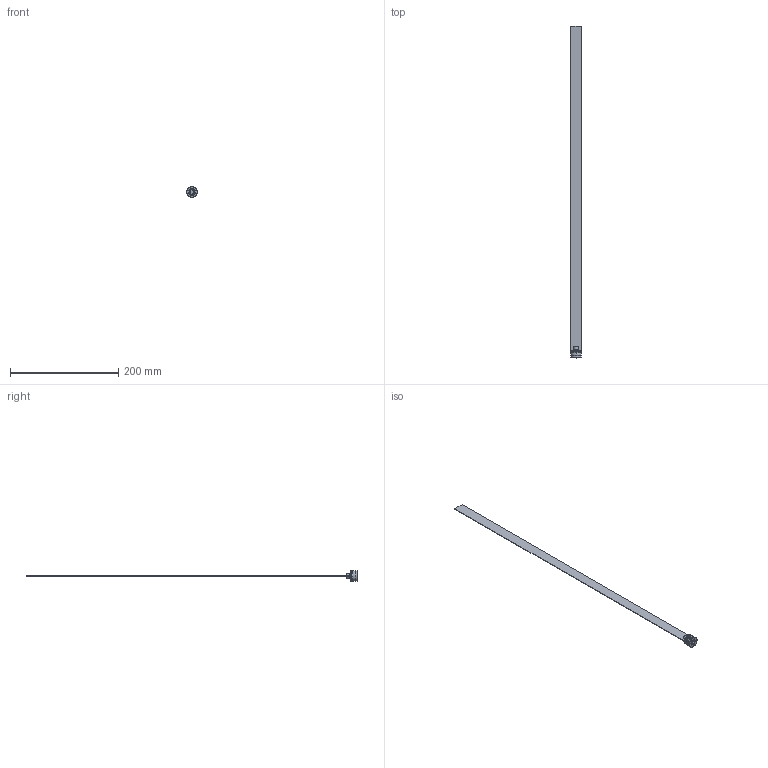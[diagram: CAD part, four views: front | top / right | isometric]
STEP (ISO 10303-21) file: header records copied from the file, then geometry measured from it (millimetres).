
FILE_DESCRIPTION (( 'STEP AP203' ), '1' );
FILE_NAME ('RL-19Fx600.STEP', '2015-12-04T10:04:58', ( 'Balzi' ), ( '' ), 'SwSTEP 2.0', 'SolidWorks 2015', '' );
FILE_SCHEMA (( 'CONFIG_CONTROL_DESIGN' ));
Length unit declared in the file: millimetre
Products named in the file (1): RL-19Fx600
Bounding box: 20.5 x 614 x 20.5 mm (x, y, z)
Volume: 15346.2 mm3; surface area: 25897.4 mm2
Topology: 1 solids, 1 shells, 75 faces, 177 edges, 109 vertices
Faces by surface type: plane 31, cone 19, cylinder 17, torus 8
Entity records: 2245 total; most frequent: CARTESIAN_POINT 412, DIRECTION 386, ORIENTED_EDGE 354, EDGE_CURVE 177, AXIS2_PLACEMENT_3D 147, VERTEX_POINT 109, VECTOR 92, LINE 92
